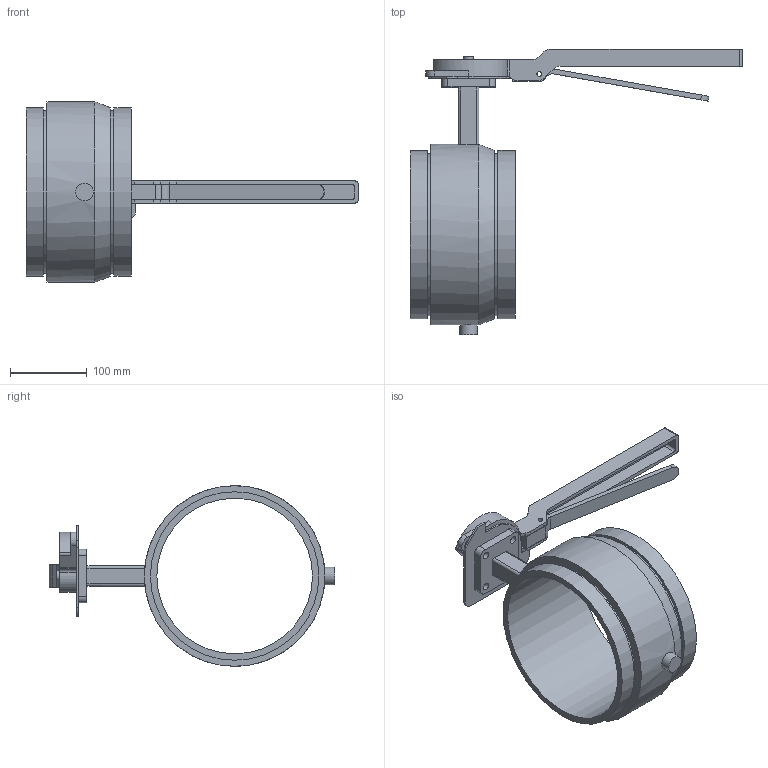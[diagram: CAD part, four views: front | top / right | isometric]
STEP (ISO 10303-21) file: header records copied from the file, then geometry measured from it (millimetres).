
FILE_DESCRIPTION(/* description */ ('VIC STRENGTHIN 300 MASTERSEAL BUTTERFLY VALVE E461 w/LH','CAx-IF Rec.Pracs.---Representation and Presentation of Product Manufacturing Information (PMI)---4.0---2014-10-13'),/* implementation_level */ '2;1');
FILE_NAME(/* name */ 'C:\Users\Vjadhav\AppData\Roaming\Autodesk\ApplicationPlugins\Back Up\Victaulic_SS-StrengThin 100_Valve Butterfly Lever Handle_Series E461 (ST1)\Victaulic_SS-StrengThin 100_Valve Butterfly Lever Handle_8 (200).stp',/* time_stamp */ '2020-07-07T16:33:55+05:00',/* author */ ('jbrannon'),/* organization */ ('Victaulic'),/* preprocessor_version */ 'ST-DEVELOPER v17.2',/* originating_system */ 'Autodesk Inventor 2019',/* authorisation */ '');
FILE_SCHEMA (('AP203_CONFIGURATION_CONTROLLED_3D_DESIGN_OF_MECHANICAL_PARTS_AND_ASSEMBLIES_MIM_LF { 1 0 10303 203 3 1 4 }','AP242_MANAGED_MODEL_BASED_3D_ENGINEERING_MIM_LF { 1 0 10303 442 1 1 4 }'));
Length unit declared in the file: inch
Products named in the file (5): E461-08.0; E461-08.0_1; E461-08.0_2; 461-LEVERLOCK; 461-LEVERLOCK2
Assembly tree (4 placements, depth 2):
  E461-08.0
    E461-08.0_1
    E461-08.0_2
    461-LEVERLOCK
    461-LEVERLOCK2
Bounding box: 431.8 x 371.59 x 234.95 mm (x, y, z)
Volume: 1518073.3 mm3; surface area: 335518.6 mm2
Topology: 4 solids, 4 shells, 137 faces, 446 edges, 390 vertices
Faces by surface type: cylinder 68, plane 68, cone 1
Full cylindrical faces by diameter (mm): 6.35 x4, 9.652 x7, 10.668 x1, 12.7 x2, 22.86 x1, 23.876 x1, 54.102 x1, 202.406 x1, 211.201 x2, 219.075 x2, 234.95 x1
Entity records: 5253 total; most frequent: CARTESIAN_POINT 1005, DIRECTION 865, ORIENTED_EDGE 750, EDGE_CURVE 375, AXIS2_PLACEMENT_3D 323, VERTEX_POINT 253, LINE 219, VECTOR 219
